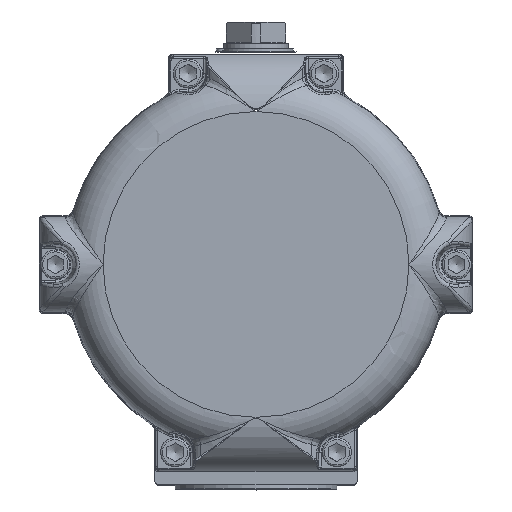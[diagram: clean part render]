
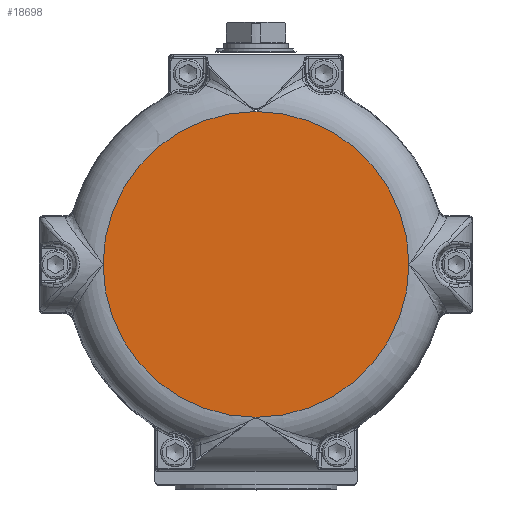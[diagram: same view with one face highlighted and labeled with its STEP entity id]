
A CAD part, top view. The second image highlights one B-rep face of the part: STEP entity #18698.
In plain terms, the highlighted planar face has unit normal (0, 0, 1).
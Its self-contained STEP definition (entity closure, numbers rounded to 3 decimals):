
#10586=CARTESIAN_POINT('',(-94.454,0.,149.0));
#10587=VERTEX_POINT('',#10586);
#10603=CARTESIAN_POINT('',(0.,94.454,149.0));
#10604=VERTEX_POINT('',#10603);
#10605=CARTESIAN_POINT('',(0.0,0.,149.0));
#10606=DIRECTION('',(0.0,0.0,1.0));
#10607=DIRECTION('',(-1.0,0.0,0.0));
#10608=AXIS2_PLACEMENT_3D('',#10605,#10606,#10607);
#10609=CIRCLE('',#10608,94.454);
#10610=EDGE_CURVE('',#10604,#10587,#10609,.T.);
#10915=CARTESIAN_POINT('',(94.454,0.,149.0));
#10916=VERTEX_POINT('',#10915);
#10917=CARTESIAN_POINT('',(0.0,0.,149.0));
#10918=DIRECTION('',(0.0,0.0,1.0));
#10919=DIRECTION('',(-1.0,0.0,0.0));
#10920=AXIS2_PLACEMENT_3D('',#10917,#10918,#10919);
#10921=CIRCLE('',#10920,94.454);
#10922=EDGE_CURVE('',#10916,#10604,#10921,.T.);
#13181=CARTESIAN_POINT('',(0.,-94.454,149.0));
#13182=VERTEX_POINT('',#13181);
#13183=CARTESIAN_POINT('',(0.0,0.,149.0));
#13184=DIRECTION('',(0.0,0.0,1.0));
#13185=DIRECTION('',(-1.0,0.0,0.0));
#13186=AXIS2_PLACEMENT_3D('',#13183,#13184,#13185);
#13187=CIRCLE('',#13186,94.454);
#13188=EDGE_CURVE('',#13182,#10916,#13187,.T.);
#13596=CARTESIAN_POINT('',(0.0,0.,149.0));
#13597=DIRECTION('',(0.0,0.0,1.0));
#13598=DIRECTION('',(-1.0,0.0,0.0));
#13599=AXIS2_PLACEMENT_3D('',#13596,#13597,#13598);
#13600=CIRCLE('',#13599,94.454);
#13601=EDGE_CURVE('',#10587,#13182,#13600,.T.);
#18687=CARTESIAN_POINT('',(-47.227,0.,149.0));
#18688=DIRECTION('',(0.0,0.0,1.0));
#18689=DIRECTION('',(0.0,-1.0,0.0));
#18690=AXIS2_PLACEMENT_3D('',#18687,#18688,#18689);
#18691=PLANE('',#18690);
#18692=ORIENTED_EDGE('',*,*,#13188,.T.);
#18693=ORIENTED_EDGE('',*,*,#10922,.T.);
#18694=ORIENTED_EDGE('',*,*,#10610,.T.);
#18695=ORIENTED_EDGE('',*,*,#13601,.T.);
#18696=EDGE_LOOP('',(#18692,#18693,#18694,#18695));
#18697=FACE_OUTER_BOUND('',#18696,.T.);
#18698=ADVANCED_FACE('',(#18697),#18691,.T.);
